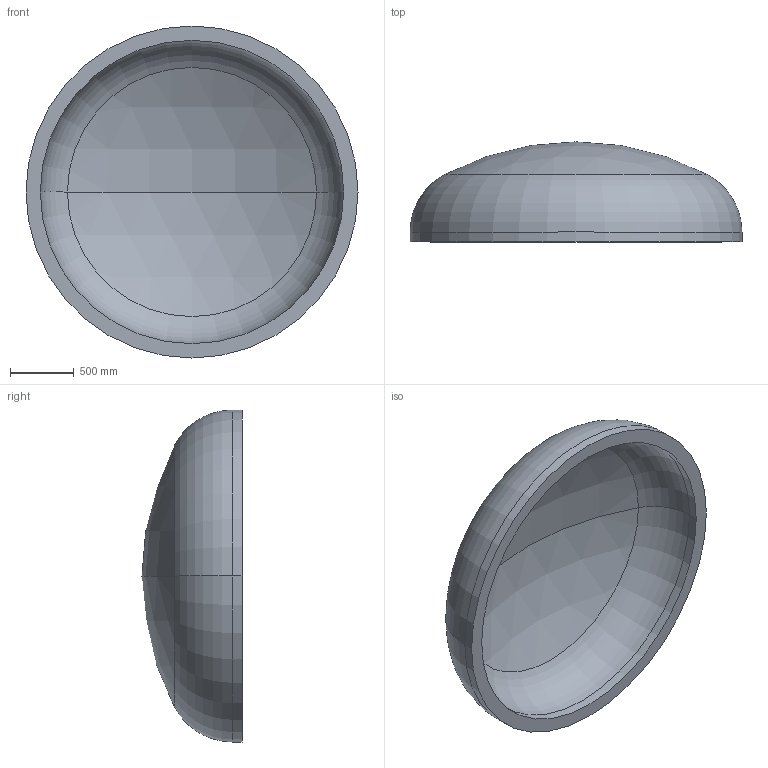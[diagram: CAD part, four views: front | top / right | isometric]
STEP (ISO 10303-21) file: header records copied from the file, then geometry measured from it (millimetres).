
FILE_DESCRIPTION (( 'STEP AP203' ), '1' );
FILE_NAME ('DIN 28013 Korbbogenform_-_Boden DIN 28013 - 2600 x 75 - I - s=112.step', '2016-07-01T16:34:36', ( '' ), ( '' ), 'SwSTEP 2.0', 'SolidWorks 2013', '' );
FILE_SCHEMA (( 'CONFIG_CONTROL_DESIGN' ));
Length unit declared in the file: millimetre
Products named in the file (1): DIN 28013 Korbbogenform_-_Boden DIN 28013 - 2600 x 75 - I - s=112
Bounding box: 2600 x 783.27 x 2600 mm (x, y, z)
Volume: 844470268.3 mm3; surface area: 15981517.4 mm2
Topology: 1 solids, 1 shells, 13 faces, 24 edges, 14 vertices
Faces by surface type: torus 4, cylinder 4, sphere 4, plane 1
Entity records: 407 total; most frequent: DIRECTION 72, CARTESIAN_POINT 52, ORIENTED_EDGE 48, AXIS2_PLACEMENT_3D 34, EDGE_CURVE 24, CIRCLE 20, EDGE_LOOP 14, VERTEX_POINT 14
